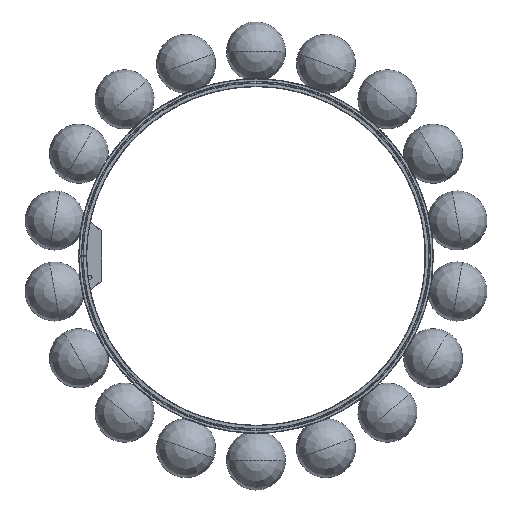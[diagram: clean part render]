
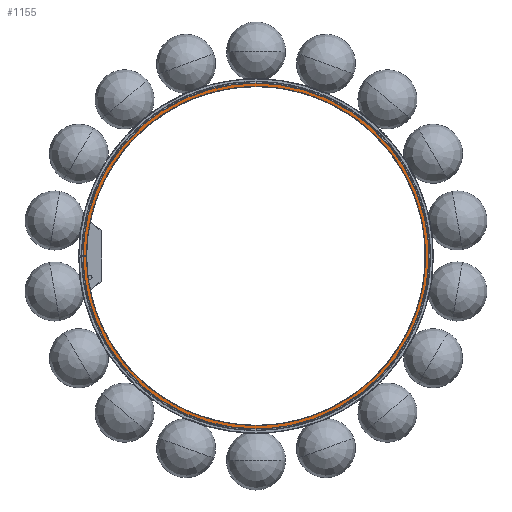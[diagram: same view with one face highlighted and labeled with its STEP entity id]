
A CAD part, top view. The second image highlights one B-rep face of the part: STEP entity #1155.
In plain terms, the highlighted planar face has unit normal (0, 0, 1).
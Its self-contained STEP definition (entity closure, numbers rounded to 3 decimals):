
#1155=ADVANCED_FACE('',(#2558),#20818,.T.);
#2558=FACE_OUTER_BOUND('',#4051,.T.);
#4051=EDGE_LOOP('',(#8995,#8996,#8997,#8998,#8999,#9000,#9001,#9002,#9003,
#9004));
#8995=ORIENTED_EDGE('',*,*,#13765,.T.);
#8996=ORIENTED_EDGE('',*,*,#13229,.F.);
#8997=ORIENTED_EDGE('',*,*,#13228,.F.);
#8998=ORIENTED_EDGE('',*,*,#13744,.T.);
#8999=ORIENTED_EDGE('',*,*,#13759,.T.);
#9000=ORIENTED_EDGE('',*,*,#13670,.F.);
#9001=ORIENTED_EDGE('',*,*,#13742,.F.);
#9002=ORIENTED_EDGE('',*,*,#13230,.F.);
#9003=ORIENTED_EDGE('',*,*,#13234,.F.);
#9004=ORIENTED_EDGE('',*,*,#13639,.T.);
#13228=EDGE_CURVE('',#19659,#19660,#16148,.T.);
#13229=EDGE_CURVE('',#19660,#19661,#16149,.T.);
#13230=EDGE_CURVE('',#19662,#19663,#16150,.T.);
#13234=EDGE_CURVE('',#19666,#19662,#16154,.T.);
#13639=EDGE_CURVE('',#19666,#19952,#17964,.T.);
#13670=EDGE_CURVE('',#19984,#19985,#17995,.T.);
#13742=EDGE_CURVE('',#19663,#19984,#16523,.T.);
#13744=EDGE_CURVE('',#19659,#19992,#16525,.T.);
#13759=EDGE_CURVE('',#19992,#19985,#16533,.T.);
#13765=EDGE_CURVE('',#19952,#19661,#16535,.T.);
#16148=(
BOUNDED_CURVE()
B_SPLINE_CURVE(2,(#67070,#67071,#67072,#67073,#67074),.UNSPECIFIED.,.F.,
 .F.)
B_SPLINE_CURVE_WITH_KNOTS((3,2,3),(0.,459.694,919.387),
 .UNSPECIFIED.)
CURVE()
GEOMETRIC_REPRESENTATION_ITEM()
RATIONAL_B_SPLINE_CURVE((1.,0.707,1.,0.707,1.))
REPRESENTATION_ITEM('')
);
#16149=(
BOUNDED_CURVE()
B_SPLINE_CURVE(2,(#67075,#67076,#67077),.UNSPECIFIED.,.F.,.F.)
B_SPLINE_CURVE_WITH_KNOTS((3,3),(0.,457.047),.UNSPECIFIED.)
CURVE()
GEOMETRIC_REPRESENTATION_ITEM()
RATIONAL_B_SPLINE_CURVE((1.,0.71,1.))
REPRESENTATION_ITEM('')
);
#16150=(
BOUNDED_CURVE()
B_SPLINE_CURVE(2,(#67078,#67079,#67080,#67081,#67082),.UNSPECIFIED.,.F.,
 .F.)
B_SPLINE_CURVE_WITH_KNOTS((3,2,3),(0.,450.819,901.637),
 .UNSPECIFIED.)
CURVE()
GEOMETRIC_REPRESENTATION_ITEM()
RATIONAL_B_SPLINE_CURVE((1.,0.707,1.,0.707,1.))
REPRESENTATION_ITEM('')
);
#16154=(
BOUNDED_CURVE()
B_SPLINE_CURVE(2,(#67094,#67095,#67096),.UNSPECIFIED.,.F.,.F.)
B_SPLINE_CURVE_WITH_KNOTS((3,3),(0.,450.318),.UNSPECIFIED.)
CURVE()
GEOMETRIC_REPRESENTATION_ITEM()
RATIONAL_B_SPLINE_CURVE((1.,0.708,1.))
REPRESENTATION_ITEM('')
);
#16523=(
BOUNDED_CURVE()
B_SPLINE_CURVE(2,(#69723,#69724,#69725),.UNSPECIFIED.,.F.,.F.)
B_SPLINE_CURVE_WITH_KNOTS((3,3),(0.,450.819),.UNSPECIFIED.)
CURVE()
GEOMETRIC_REPRESENTATION_ITEM()
RATIONAL_B_SPLINE_CURVE((1.,0.707,1.))
REPRESENTATION_ITEM('')
);
#16525=(
BOUNDED_CURVE()
B_SPLINE_CURVE(2,(#69729,#69730,#69731),.UNSPECIFIED.,.F.,.F.)
B_SPLINE_CURVE_WITH_KNOTS((3,3),(-457.047,0.),.UNSPECIFIED.)
CURVE()
GEOMETRIC_REPRESENTATION_ITEM()
RATIONAL_B_SPLINE_CURVE((1.,0.71,1.))
REPRESENTATION_ITEM('')
);
#16533=(
BOUNDED_CURVE()
B_SPLINE_CURVE(2,(#69793,#69794,#69795),.UNSPECIFIED.,.F.,.F.)
B_SPLINE_CURVE_WITH_KNOTS((3,3),(-3.242,0.),.UNSPECIFIED.)
CURVE()
GEOMETRIC_REPRESENTATION_ITEM()
RATIONAL_B_SPLINE_CURVE((1.,0.858,1.))
REPRESENTATION_ITEM('')
);
#16535=(
BOUNDED_CURVE()
B_SPLINE_CURVE(2,(#69827,#69828,#69829),.UNSPECIFIED.,.F.,.F.)
B_SPLINE_CURVE_WITH_KNOTS((3,3),(-2.732,0.),.UNSPECIFIED.)
CURVE()
GEOMETRIC_REPRESENTATION_ITEM()
RATIONAL_B_SPLINE_CURVE((1.,0.898,1.))
REPRESENTATION_ITEM('')
);
#17964=B_SPLINE_CURVE_WITH_KNOTS('',1,(#69166,#69167),.UNSPECIFIED.,.F.,
 .F.,(2,2),(-4.094,0.),.UNSPECIFIED.);
#17995=B_SPLINE_CURVE_WITH_KNOTS('',1,(#69228,#69229),.UNSPECIFIED.,.F.,
 .F.,(2,2),(0.,4.05),.UNSPECIFIED.);
#19659=VERTEX_POINT('',#65396);
#19660=VERTEX_POINT('',#65397);
#19661=VERTEX_POINT('',#65398);
#19662=VERTEX_POINT('',#65399);
#19663=VERTEX_POINT('',#65400);
#19666=VERTEX_POINT('',#65403);
#19952=VERTEX_POINT('',#65689);
#19984=VERTEX_POINT('',#65721);
#19985=VERTEX_POINT('',#65722);
#19992=VERTEX_POINT('',#65729);
#20818=PLANE('',#22241);
#22241=AXIS2_PLACEMENT_3D('',#64244,#22436,$);
#22436=DIRECTION('',(0.,0.,1.));
#64244=CARTESIAN_POINT('',(-351.167,351.18,20.));
#65396=CARTESIAN_POINT('',(0.,292.65,20.));
#65397=CARTESIAN_POINT('',(0.,-292.65,20.));
#65398=CARTESIAN_POINT('',(-292.638,-2.647,20.));
#65399=CARTESIAN_POINT('',(0.,-287.,20.));
#65400=CARTESIAN_POINT('',(0.,287.,20.));
#65403=CARTESIAN_POINT('',(-287.,-0.501,20.));
#65689=CARTESIAN_POINT('',(-291.093,-0.508,20.));
#65721=CARTESIAN_POINT('',(-287.,0.,20.));
#65722=CARTESIAN_POINT('',(-291.05,0.,20.));
#65729=CARTESIAN_POINT('',(-292.638,2.647,20.));
#67070=CARTESIAN_POINT('',(0.,292.65,20.));
#67071=CARTESIAN_POINT('',(292.65,292.65,20.));
#67072=CARTESIAN_POINT('',(292.65,0.,20.));
#67073=CARTESIAN_POINT('',(292.65,-292.65,20.));
#67074=CARTESIAN_POINT('',(0.,-292.65,20.));
#67075=CARTESIAN_POINT('',(0.,-292.65,20.));
#67076=CARTESIAN_POINT('',(-290.015,-292.65,20.));
#67077=CARTESIAN_POINT('',(-292.638,-2.647,20.));
#67078=CARTESIAN_POINT('',(0.,-287.,20.));
#67079=CARTESIAN_POINT('',(287.,-287.,20.));
#67080=CARTESIAN_POINT('',(287.,0.,20.));
#67081=CARTESIAN_POINT('',(287.,287.,20.));
#67082=CARTESIAN_POINT('',(0.,287.,20.));
#67094=CARTESIAN_POINT('',(-287.,-0.501,20.));
#67095=CARTESIAN_POINT('',(-286.5,-287.,20.));
#67096=CARTESIAN_POINT('',(0.,-287.,20.));
#69166=CARTESIAN_POINT('',(-287.,-0.501,20.));
#69167=CARTESIAN_POINT('',(-291.093,-0.508,20.));
#69228=CARTESIAN_POINT('',(-287.,0.,20.));
#69229=CARTESIAN_POINT('',(-291.05,0.,20.));
#69723=CARTESIAN_POINT('',(0.,287.,20.));
#69724=CARTESIAN_POINT('',(-287.,287.,20.));
#69725=CARTESIAN_POINT('',(-287.,0.,20.));
#69729=CARTESIAN_POINT('',(0.,292.65,20.));
#69730=CARTESIAN_POINT('',(-290.015,292.65,20.));
#69731=CARTESIAN_POINT('',(-292.638,2.647,20.));
#69793=CARTESIAN_POINT('',(-292.638,2.647,20.));
#69794=CARTESIAN_POINT('',(-291.05,1.8,20.));
#69795=CARTESIAN_POINT('',(-291.05,0.,20.));
#69827=CARTESIAN_POINT('',(-291.093,-0.508,20.));
#69828=CARTESIAN_POINT('',(-291.342,-1.956,20.));
#69829=CARTESIAN_POINT('',(-292.638,-2.647,20.));
